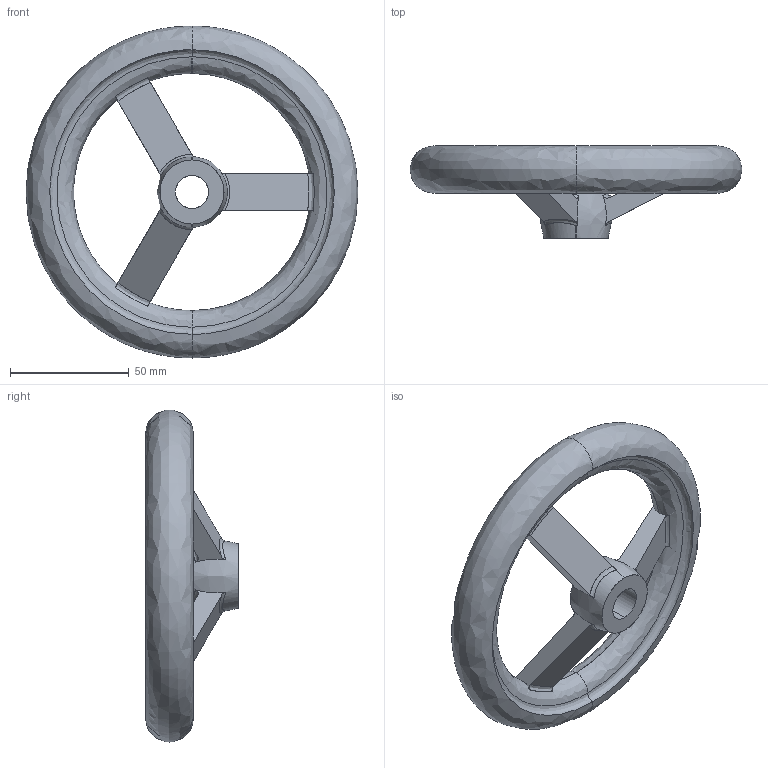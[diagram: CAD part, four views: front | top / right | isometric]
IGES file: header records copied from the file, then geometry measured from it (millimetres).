
Start section: SolidWorks IGES file using analytic representation for surfaces
Global section: file name: C:\Users\IanO\Desktop\Temp File\Process pending\77120_v2\77120_v2_20171108_IGES\77120.W0015.igs; native system: SolidWorks 2017; preprocessor: SolidWorks 2017; author: IanO; date: 171108.083037; units: millimetre
Bounding box: 140 x 39 x 140 mm (x, y, z)
Surface area: 32254.2 mm2 (no closed solid volume)
Topology: 0 solids, 0 shells, 51 faces, 870 edges, 865 vertices
Faces by surface type: bspline 49, revolution 2
